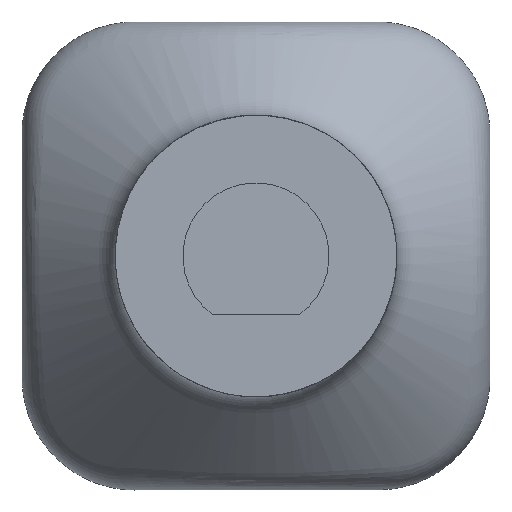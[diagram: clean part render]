
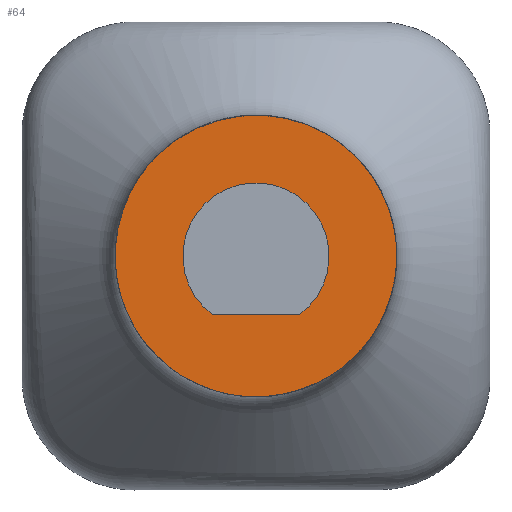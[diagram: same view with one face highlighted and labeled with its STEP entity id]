
A CAD part, front view. The second image highlights one B-rep face of the part: STEP entity #64.
In plain terms, the highlighted planar face has unit normal (0, -1, 0).
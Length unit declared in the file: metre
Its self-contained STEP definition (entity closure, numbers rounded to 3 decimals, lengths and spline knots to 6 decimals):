
#11=B_SPLINE_CURVE_WITH_KNOTS('',3,(#142,#143,#144,#145,#146,#147,#148,
#149,#150,#151,#152,#153,#154,#155,#156),.UNSPECIFIED.,.T.,.F.,(1,1,1,1,
1,1,1,1,1,1,1,1,1,1,1,1,1,1,1),(-0.00785,-0.005888,
-0.003925,0.,0.003925,0.005888,
0.00785,0.009813,0.011775,0.0157,
0.019625,0.021588,0.02355,0.025513,
0.027475,0.031401,0.035326,0.037288,
0.039251),.UNSPECIFIED.);
#14=CIRCLE('',#106,0.00254);
#25=ORIENTED_EDGE('',*,*,#34,.F.);
#26=ORIENTED_EDGE('',*,*,#30,.F.);
#27=ORIENTED_EDGE('',*,*,#33,.T.);
#30=EDGE_CURVE('',#37,#38,#14,.T.);
#33=EDGE_CURVE('',#37,#38,#43,.T.);
#34=EDGE_CURVE('',#39,#39,#11,.T.);
#37=VERTEX_POINT('',#135);
#38=VERTEX_POINT('',#136);
#39=VERTEX_POINT('',#157);
#43=LINE('',#140,#47);
#47=VECTOR('',#124,1.);
#51=EDGE_LOOP('',(#25));
#52=EDGE_LOOP('',(#26,#27));
#56=FACE_BOUND('',#51,.T.);
#57=FACE_BOUND('',#52,.T.);
#60=PLANE('',#108);
#64=ADVANCED_FACE('',(#56,#57),#60,.T.);
#106=AXIS2_PLACEMENT_3D('',#134,#118,#119);
#108=AXIS2_PLACEMENT_3D('',#141,#125,#126);
#118=DIRECTION('',(0.,-1.,0.));
#119=DIRECTION('',(0.,0.,-1.));
#124=DIRECTION('',(-1.,0.,0.));
#125=DIRECTION('',(0.,-1.,0.));
#126=DIRECTION('',(1.,0.,0.));
#134=CARTESIAN_POINT('',(0.,0.027777,0.));
#135=CARTESIAN_POINT('',(0.001524,0.027777,-0.002032));
#136=CARTESIAN_POINT('',(-0.001524,0.027777,-0.002032));
#140=CARTESIAN_POINT('',(0.,0.027777,-0.002032));
#141=CARTESIAN_POINT('',(0.,0.027777,0.));
#142=CARTESIAN_POINT('',(-0.005132,0.027777,0.000781));
#143=CARTESIAN_POINT('',(-0.003738,0.027777,0.003946));
#144=CARTESIAN_POINT('',(-0.000502,0.027777,0.005167));
#145=CARTESIAN_POINT('',(0.002049,0.027777,0.004589));
#146=CARTESIAN_POINT('',(0.003643,0.027777,0.00345));
#147=CARTESIAN_POINT('',(0.004694,0.027777,0.001798));
#148=CARTESIAN_POINT('',(0.005132,0.027777,-0.000781));
#149=CARTESIAN_POINT('',(0.003738,0.027777,-0.003946));
#150=CARTESIAN_POINT('',(0.000502,0.027777,-0.005167));
#151=CARTESIAN_POINT('',(-0.002049,0.027777,-0.004589));
#152=CARTESIAN_POINT('',(-0.003643,0.027777,-0.00345));
#153=CARTESIAN_POINT('',(-0.004694,0.027777,-0.001798));
#154=CARTESIAN_POINT('',(-0.005132,0.027777,0.000781));
#155=CARTESIAN_POINT('',(-0.003738,0.027777,0.003946));
#156=CARTESIAN_POINT('',(-0.000502,0.027777,0.005167));
#157=CARTESIAN_POINT('',(-0.00337,0.027777,0.003557));
